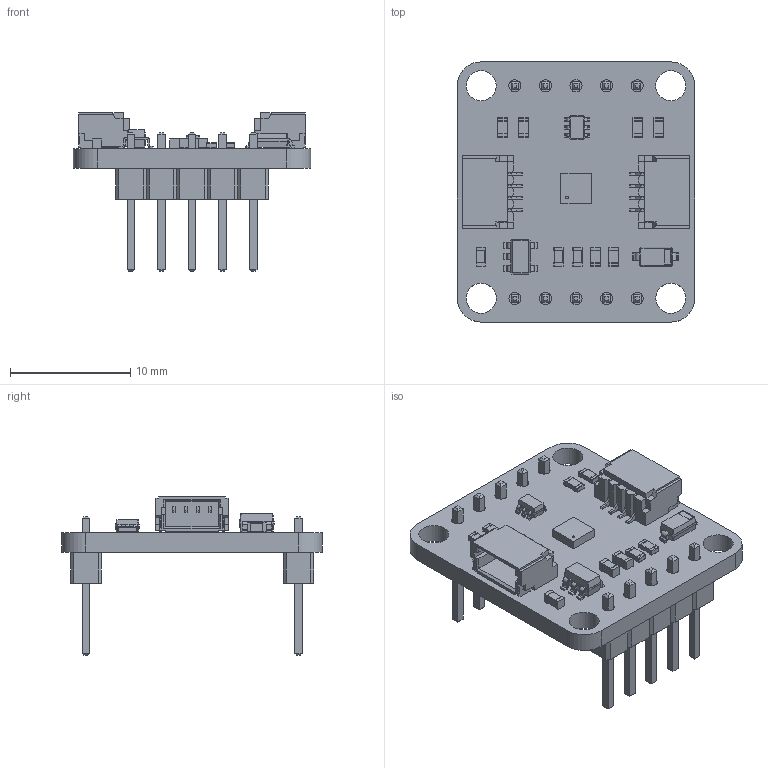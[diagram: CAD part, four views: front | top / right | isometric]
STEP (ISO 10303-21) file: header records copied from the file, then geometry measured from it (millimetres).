
FILE_DESCRIPTION(('KiCad electronic assembly'),'2;1');
FILE_NAME('STP_AXM0026.step','2025-01-28T16:27:20',('Pcbnew'),('Kicad'), 'Open CASCADE STEP processor 7.8','KiCad to STEP converter','Unknown' );
FILE_SCHEMA(('AUTOMOTIVE_DESIGN { 1 0 10303 214 1 1 1 1 }'));
Length unit declared in the file: millimetre
Products named in the file (18): STP_AXM0026 1; C_0603_1608Metric; R_0603_1608Metric; SM04B-SRSS-TB(LF)(SN)--3DModel-STEP-269445; SM04B-SRSS-TB(LF)(SN); SOT-23-5; SOT_23_5; Bosch_LGA-8_2.5x2.5mm_P0.65mm_ClockwisePinNumbering; Bosch_LGA_8_25x25mm_P065mm_ClockwisePinNumbering; D_SOD-123; D_SOD_123; SOT-363_SC-70-6; SOT_363_SC_70_6; PinHeader_1x05_P2.54mm_Vertical; PinHeader_1x05_P254mm_Vertical; BME280_PCB
Assembly tree (26 placements, depth 3):
  STP_AXM0026 1
    C_0603_1608Metric  x3
      C_0603_1608Metric
    R_0603_1608Metric  x6
      R_0603_1608Metric
    SM04B-SRSS-TB(LF)(SN)--3DModel-STEP-269445  x2
      SM04B-SRSS-TB(LF)(SN)
    SOT-23-5
      SOT_23_5
    Bosch_LGA-8_2.5x2.5mm_P0.65mm_ClockwisePinNumbering
      Bosch_LGA_8_25x25mm_P065mm_ClockwisePinNumbering
    D_SOD-123
      D_SOD_123
    SOT-363_SC-70-6
      SOT_363_SC_70_6
    PinHeader_1x05_P2.54mm_Vertical  x2
      PinHeader_1x05_P254mm_Vertical
    BME280_PCB
Bounding box: 19.74 x 21.64 x 13.21 mm (x, y, z)
Volume: 935.9 mm3; surface area: 2044.8 mm2
Topology: 30 solids, 30 shells, 1312 faces, 3402 edges, 2180 vertices
Faces by surface type: plane 992, cylinder 235, bspline 85
Full cylindrical faces by diameter (mm): 0.2 x1, 1 x10, 2.5 x4
Entity records: 26956 total; most frequent: CARTESIAN_POINT 4383, ORIENTED_EDGE 3956, DIRECTION 3574, EDGE_CURVE 1978, LINE 1620, VECTOR 1620, VERTEX_POINT 1254, AXIS2_PLACEMENT_3D 977
